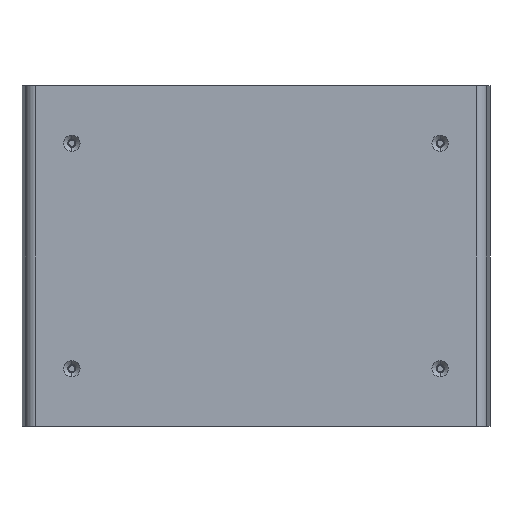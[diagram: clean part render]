
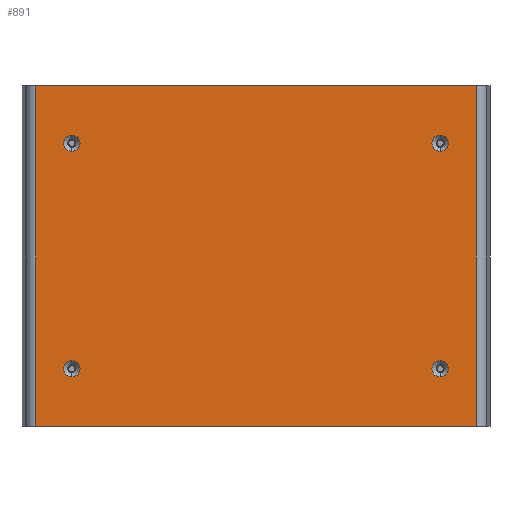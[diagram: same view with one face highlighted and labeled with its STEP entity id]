
A CAD part, front view. The second image highlights one B-rep face of the part: STEP entity #891.
In plain terms, the highlighted planar face has unit normal (0, -1, 0).
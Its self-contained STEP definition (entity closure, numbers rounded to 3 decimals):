
#179 = FACE_BOUND ( 'NONE', #1765, .T. ) ;
#301 = EDGE_LOOP ( 'NONE', ( #16241, #13514 ) ) ;
#353 = AXIS2_PLACEMENT_3D ( 'NONE', #14674, #2582, #12927 ) ;
#354 = FACE_BOUND ( 'NONE', #6745, .T. ) ;
#706 = ORIENTED_EDGE ( 'NONE', *, *, #780, .T. ) ;
#777 = CIRCLE ( 'NONE', #12047, 3.98 ) ;
#780 = EDGE_CURVE ( 'NONE', #12962, #7469, #2906, .T. ) ;
#891 = ADVANCED_FACE ( 'NONE', ( #179, #12358, #13863, #354, #9629 ), #11108, .F. ) ;
#936 = DIRECTION ( 'NONE',  ( 0., 0., -1. ) ) ;
#1078 = DIRECTION ( 'NONE',  ( 0., 0., -1. ) ) ;
#1158 = EDGE_CURVE ( 'NONE', #12962, #6315, #7580, .T. ) ;
#1233 = CARTESIAN_POINT ( 'NONE',  ( 89.245, -30.127, -270.669 ) ) ;
#1765 = EDGE_LOOP ( 'NONE', ( #7365, #11429 ) ) ;
#2582 = DIRECTION ( 'NONE',  ( 0., -1., 0. ) ) ;
#2733 = DIRECTION ( 'NONE',  ( 0., 0., -1. ) ) ;
#2775 = EDGE_CURVE ( 'NONE', #7230, #15351, #15350, .T. ) ;
#2906 = LINE ( 'NONE', #5467, #8545 ) ;
#3379 = CARTESIAN_POINT ( 'NONE',  ( -106.64, -30.127, -302.498 ) ) ;
#3392 = DIRECTION ( 'NONE',  ( 0., 0., -1. ) ) ;
#3512 = ORIENTED_EDGE ( 'NONE', *, *, #12129, .F. ) ;
#3526 = VERTEX_POINT ( 'NONE', #14379 ) ;
#3732 = CIRCLE ( 'NONE', #353, 3.98 ) ;
#3813 = ORIENTED_EDGE ( 'NONE', *, *, #14629, .T. ) ;
#4069 = ORIENTED_EDGE ( 'NONE', *, *, #1158, .F. ) ;
#4176 = VERTEX_POINT ( 'NONE', #5597 ) ;
#4220 = DIRECTION ( 'NONE',  ( 0., 0., -1. ) ) ;
#4326 = DIRECTION ( 'NONE',  ( 0., 0., 1. ) ) ;
#4518 = EDGE_CURVE ( 'NONE', #10871, #16240, #3732, .T. ) ;
#4614 = CARTESIAN_POINT ( 'NONE',  ( 106.634, -30.127, -137.502 ) ) ;
#4634 = CARTESIAN_POINT ( 'NONE',  ( 89.245, -30.127, -165.351 ) ) ;
#5467 = CARTESIAN_POINT ( 'NONE',  ( -106.64, -30.127, -302.498 ) ) ;
#5509 = CARTESIAN_POINT ( 'NONE',  ( 89.245, -30.127, -274.649 ) ) ;
#5597 = CARTESIAN_POINT ( 'NONE',  ( 106.634, -30.127, -302.498 ) ) ;
#5721 = EDGE_CURVE ( 'NONE', #8106, #16895, #7019, .T. ) ;
#6043 = VECTOR ( 'NONE', #14537, 1000. ) ;
#6074 = DIRECTION ( 'NONE',  ( 0., -1., 0. ) ) ;
#6094 = AXIS2_PLACEMENT_3D ( 'NONE', #17214, #12009, #1078 ) ;
#6155 = VECTOR ( 'NONE', #15371, 1000. ) ;
#6232 = DIRECTION ( 'NONE',  ( 0., -1., 0. ) ) ;
#6314 = CARTESIAN_POINT ( 'NONE',  ( -89.251, -30.127, -165.351 ) ) ;
#6315 = VERTEX_POINT ( 'NONE', #7261 ) ;
#6745 = EDGE_LOOP ( 'NONE', ( #9441, #10094 ) ) ;
#6996 = AXIS2_PLACEMENT_3D ( 'NONE', #4634, #8514, #3392 ) ;
#7019 = CIRCLE ( 'NONE', #16045, 3.98 ) ;
#7132 = CARTESIAN_POINT ( 'NONE',  ( -89.251, -30.127, -274.649 ) ) ;
#7229 = VERTEX_POINT ( 'NONE', #9748 ) ;
#7230 = VERTEX_POINT ( 'NONE', #15140 ) ;
#7246 = CIRCLE ( 'NONE', #13173, 3.98 ) ;
#7261 = CARTESIAN_POINT ( 'NONE',  ( 106.634, -30.127, -137.502 ) ) ;
#7365 = ORIENTED_EDGE ( 'NONE', *, *, #4518, .F. ) ;
#7469 = VERTEX_POINT ( 'NONE', #3379 ) ;
#7580 = LINE ( 'NONE', #7925, #6043 ) ;
#7749 = DIRECTION ( 'NONE',  ( 0., -1., 0. ) ) ;
#7762 = DIRECTION ( 'NONE',  ( -1., 0., 0. ) ) ;
#7925 = CARTESIAN_POINT ( 'NONE',  ( 113.394, -30.127, -137.502 ) ) ;
#8106 = VERTEX_POINT ( 'NONE', #16804 ) ;
#8376 = EDGE_LOOP ( 'NONE', ( #9653, #10743 ) ) ;
#8514 = DIRECTION ( 'NONE',  ( 0., -1., 0. ) ) ;
#8545 = VECTOR ( 'NONE', #2733, 1000. ) ;
#8712 = CIRCLE ( 'NONE', #6996, 3.98 ) ;
#8777 = EDGE_LOOP ( 'NONE', ( #4069, #706, #3512, #3813 ) ) ;
#9431 = AXIS2_PLACEMENT_3D ( 'NONE', #6314, #6232, #936 ) ;
#9441 = ORIENTED_EDGE ( 'NONE', *, *, #2775, .F. ) ;
#9629 = FACE_OUTER_BOUND ( 'NONE', #8777, .T. ) ;
#9653 = ORIENTED_EDGE ( 'NONE', *, *, #9708, .F. ) ;
#9708 = EDGE_CURVE ( 'NONE', #3526, #7229, #8712, .T. ) ;
#9748 = CARTESIAN_POINT ( 'NONE',  ( 89.245, -30.127, -161.371 ) ) ;
#10050 = CARTESIAN_POINT ( 'NONE',  ( 89.245, -30.127, -274.649 ) ) ;
#10094 = ORIENTED_EDGE ( 'NONE', *, *, #16448, .F. ) ;
#10315 = CARTESIAN_POINT ( 'NONE',  ( 113.394, -30.127, -302.498 ) ) ;
#10624 = CARTESIAN_POINT ( 'NONE',  ( -89.251, -30.127, -161.371 ) ) ;
#10743 = ORIENTED_EDGE ( 'NONE', *, *, #17248, .F. ) ;
#10871 = VERTEX_POINT ( 'NONE', #15135 ) ;
#10888 = DIRECTION ( 'NONE',  ( 0., 0., -1. ) ) ;
#11108 = PLANE ( 'NONE',  #13335 ) ;
#11151 = CIRCLE ( 'NONE', #14267, 3.98 ) ;
#11429 = ORIENTED_EDGE ( 'NONE', *, *, #16963, .F. ) ;
#11890 = DIRECTION ( 'NONE',  ( 0., 0., -1. ) ) ;
#12009 = DIRECTION ( 'NONE',  ( 0., -1., 0. ) ) ;
#12047 = AXIS2_PLACEMENT_3D ( 'NONE', #13223, #7749, #11890 ) ;
#12129 = EDGE_CURVE ( 'NONE', #4176, #7469, #14297, .T. ) ;
#12136 = CARTESIAN_POINT ( 'NONE',  ( -106.64, -30.127, -137.502 ) ) ;
#12358 = FACE_BOUND ( 'NONE', #301, .T. ) ;
#12531 = CARTESIAN_POINT ( 'NONE',  ( -0.003, -30.127, -220. ) ) ;
#12600 = VECTOR ( 'NONE', #7762, 1000. ) ;
#12927 = DIRECTION ( 'NONE',  ( 0., 0., -1. ) ) ;
#12962 = VERTEX_POINT ( 'NONE', #12136 ) ;
#13173 = AXIS2_PLACEMENT_3D ( 'NONE', #7132, #16307, #4220 ) ;
#13223 = CARTESIAN_POINT ( 'NONE',  ( 89.245, -30.127, -165.351 ) ) ;
#13335 = AXIS2_PLACEMENT_3D ( 'NONE', #12531, #16405, #4326 ) ;
#13514 = ORIENTED_EDGE ( 'NONE', *, *, #16030, .F. ) ;
#13863 = FACE_BOUND ( 'NONE', #8376, .T. ) ;
#13966 = DIRECTION ( 'NONE',  ( 0., 0., -1. ) ) ;
#14267 = AXIS2_PLACEMENT_3D ( 'NONE', #10050, #6074, #13966 ) ;
#14297 = LINE ( 'NONE', #10315, #12600 ) ;
#14324 = CARTESIAN_POINT ( 'NONE',  ( -89.251, -30.127, -270.669 ) ) ;
#14379 = CARTESIAN_POINT ( 'NONE',  ( 89.245, -30.127, -169.331 ) ) ;
#14537 = DIRECTION ( 'NONE',  ( 1., 0., 0. ) ) ;
#14566 = CIRCLE ( 'NONE', #6094, 3.98 ) ;
#14629 = EDGE_CURVE ( 'NONE', #4176, #6315, #15203, .T. ) ;
#14674 = CARTESIAN_POINT ( 'NONE',  ( -89.251, -30.127, -274.649 ) ) ;
#14963 = DIRECTION ( 'NONE',  ( 0., -1., 0. ) ) ;
#15135 = CARTESIAN_POINT ( 'NONE',  ( -89.251, -30.127, -278.629 ) ) ;
#15140 = CARTESIAN_POINT ( 'NONE',  ( -89.251, -30.127, -169.331 ) ) ;
#15203 = LINE ( 'NONE', #4614, #6155 ) ;
#15350 = CIRCLE ( 'NONE', #9431, 3.98 ) ;
#15351 = VERTEX_POINT ( 'NONE', #10624 ) ;
#15371 = DIRECTION ( 'NONE',  ( 0., 0., 1. ) ) ;
#16030 = EDGE_CURVE ( 'NONE', #16895, #8106, #11151, .T. ) ;
#16045 = AXIS2_PLACEMENT_3D ( 'NONE', #5509, #14963, #10888 ) ;
#16240 = VERTEX_POINT ( 'NONE', #14324 ) ;
#16241 = ORIENTED_EDGE ( 'NONE', *, *, #5721, .F. ) ;
#16307 = DIRECTION ( 'NONE',  ( 0., -1., 0. ) ) ;
#16405 = DIRECTION ( 'NONE',  ( 0., 1., 0. ) ) ;
#16448 = EDGE_CURVE ( 'NONE', #15351, #7230, #14566, .T. ) ;
#16804 = CARTESIAN_POINT ( 'NONE',  ( 89.245, -30.127, -278.629 ) ) ;
#16895 = VERTEX_POINT ( 'NONE', #1233 ) ;
#16963 = EDGE_CURVE ( 'NONE', #16240, #10871, #7246, .T. ) ;
#17214 = CARTESIAN_POINT ( 'NONE',  ( -89.251, -30.127, -165.351 ) ) ;
#17248 = EDGE_CURVE ( 'NONE', #7229, #3526, #777, .T. ) ;
